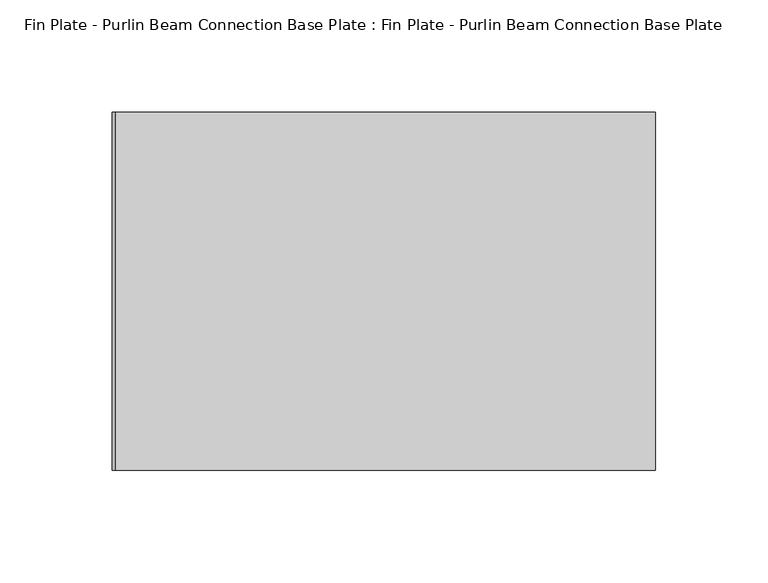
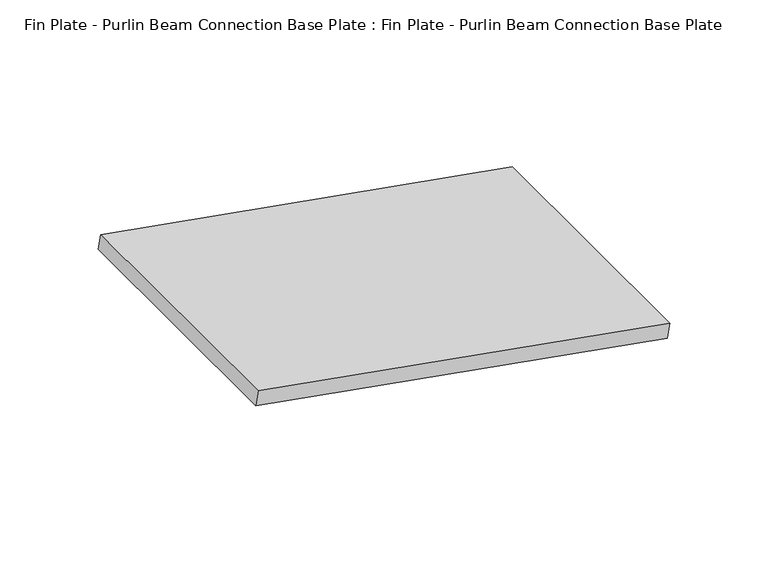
"""IFC4 building model written with IfcOpenShell, lengths in millimetres: proxy geometry, Fin Plate - Purlin Beam Connection Base Plate : Fin Plate - Purlin Beam Connection Base Plate."""

from ifc_helpers import new_model, si_unit, frame, origin, place, context, project, spatial, polyline, outline, extrude, source, transform, mapped, element, save


def fin_plate_purlin_beam_connection_base_plate_fin_plate_purlin_f1d1ecae(model_context):
    return source(origin(), model_context, "Body", "SweptSolid", [
        extrude(outline(polyline([(0.0, -160.0), (0.0, 0.0), (245.0, 0.0), (245.0, -160.0), (0.0, -160.0)])), frame((-31958.5886145, 11313.6549517, 3241.7802983), z_axis=(0.17364817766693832, 0.0, 0.9848077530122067), x_axis=(0.9848077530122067, 0.0, -0.17364817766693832)), (0.0, 0.0, 1.0), 8.8039089),
    ])


if __name__ == "__main__":
    model = new_model("IFC4")
    model_context = context("Model", 3, world=origin())
    ifc_project = project(units=[si_unit("LENGTHUNIT", "METRE", prefix="MILLI")], contexts=[model_context])
    site = spatial("IfcSite", under=ifc_project)
    building = spatial("IfcBuilding", under=site)
    placement = place(None, origin())
    fin_plate_purlin_beam_connection_base_plate_fin_plate_purlin_shape = fin_plate_purlin_beam_connection_base_plate_fin_plate_purlin_f1d1ecae(model_context)
    element("IfcBuildingElementProxy", 1, Name="Fin Plate - Purlin Beam Connection Base Plate : Fin Plate - Purlin Beam Connection Base Plate", ObjectType="Fin Plate - Purlin Beam Connection Base Plate : Fin Plate - Purlin Beam Connection Base Plate", at=placement, inside=building, context=model_context, shape_type="MappedRepresentation", body=[
        mapped(fin_plate_purlin_beam_connection_base_plate_fin_plate_purlin_shape, transform((0.0, 0.0, 0.0), x_axis=(1.0, 0.0, 0.0), y_axis=(0.0, 1.0, 0.0), z_axis=(0.0, 0.0, 1.0))),
    ])
    save(model, "model.ifc")
